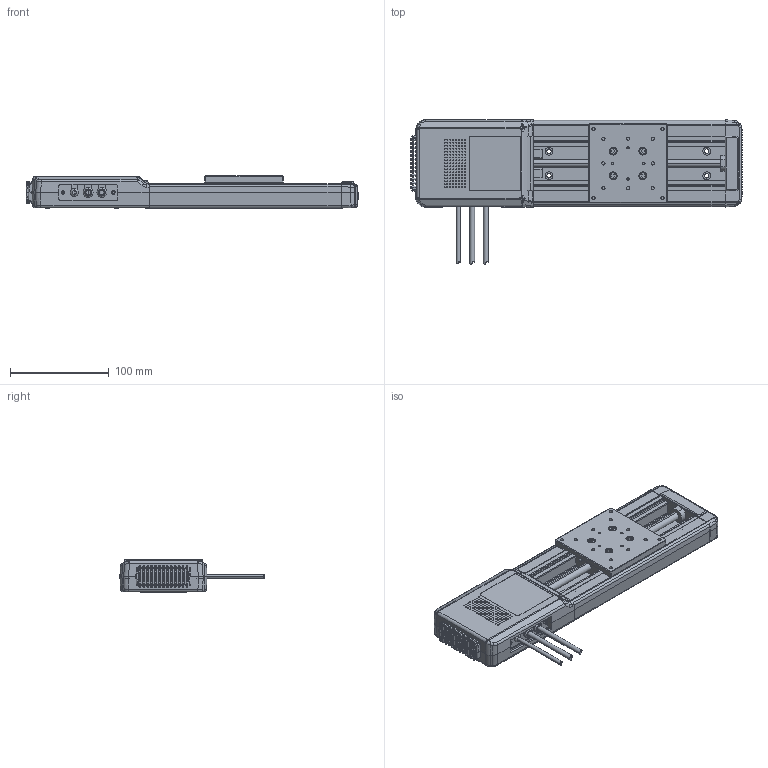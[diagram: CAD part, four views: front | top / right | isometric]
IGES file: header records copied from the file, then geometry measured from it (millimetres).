
Global section: file name: No Iges File Name specified; native system: AutoDesk Inventor R12.0; preprocessor: AutoDesk Inventor Iges Exporter R12.0; author: No Author specified; organization: No Organization specified; date: 20130515.173855; units: millimetre
Bounding box: 336.81 x 146.35 x 33 mm (x, y, z)
Volume: 391995.8 mm3; surface area: 259995.1 mm2
Topology: 50 solids, 59 shells, 4084 faces, 10512 edges, 6451 vertices
Faces by surface type: plane 1744, cylinder 1092, bspline 584, sphere 286, revolution 204, cone 148, torus 26
